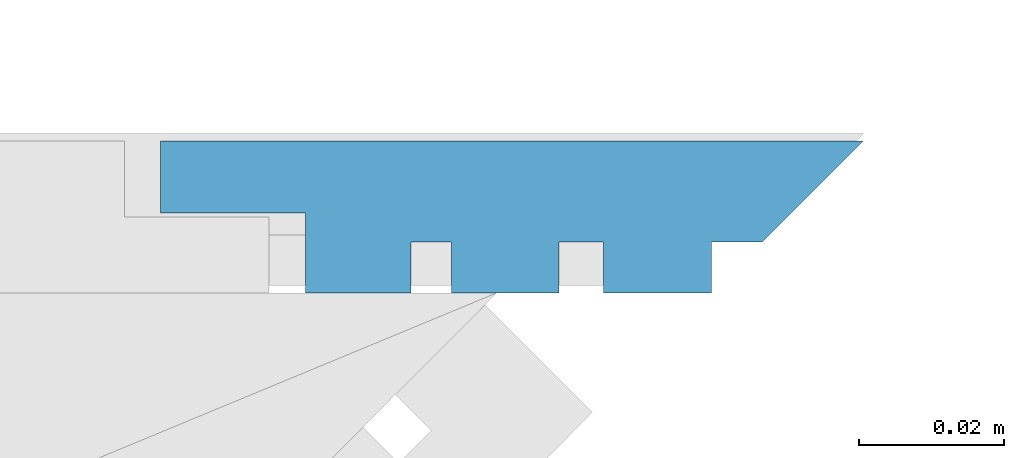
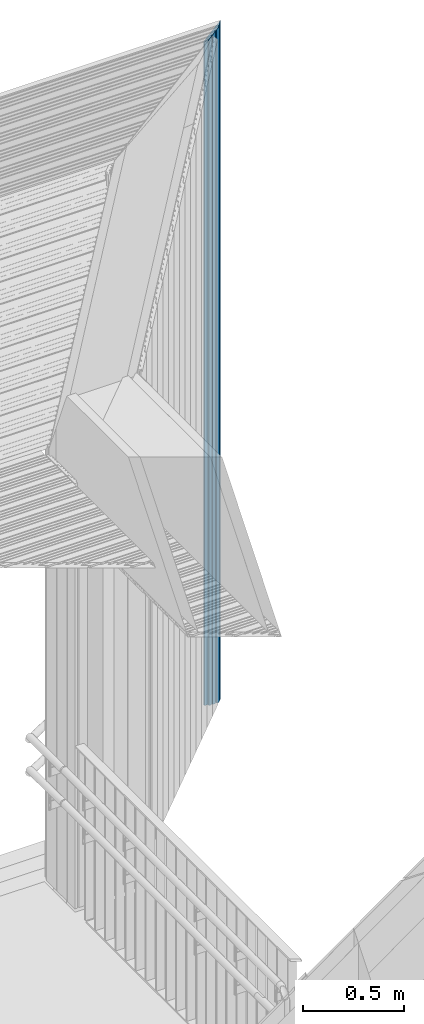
# One storey, part 147 of 418: 1 building element part, 1 element without a shape of its own.
"""IFC2X3 building model written with IfcOpenShell, lengths in millimetres."""

from ifc_helpers import new_model, entity, si_unit, converted_unit, derived_unit, money_unit, direction, frame, origin_with_axes, place, context, subcontext, project, spatial, polyline, outline, extrude, boolean, faceted_brep, material, type_object, element, aggregate, save


model = new_model("IFC2X3")

# Units and contexts
model_context = context("Model", 3, precision=0.01, world=origin_with_axes(), true_north=direction((0.0, 1.0)))
body_context = subcontext(model_context, "Body", "Model", "MODEL_VIEW")
ifc_project = project(units=[si_unit("LENGTHUNIT", "METRE", prefix="MILLI"), si_unit("AREAUNIT", "SQUARE_METRE"), si_unit("VOLUMEUNIT", "CUBIC_METRE"), converted_unit("PLANEANGLEUNIT", "DEGREE", entity("IfcPlaneAngleMeasure", 0.0174532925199), si_unit("PLANEANGLEUNIT", "RADIAN"), dimensions=[0, 0, 0, 0, 0, 0, 0]), si_unit("SOLIDANGLEUNIT", "STERADIAN"), money_unit("EUR"), converted_unit("TIMEUNIT", "Year", entity("IfcTimeMeasure", 31556926.0), si_unit("TIMEUNIT", "SECOND"), dimensions=[0, 0, 1, 0, 0, 0, 0]), si_unit("MASSUNIT", "GRAM", prefix="KILO"), si_unit("THERMODYNAMICTEMPERATUREUNIT", "DEGREE_CELSIUS"), si_unit("LUMINOUSINTENSITYUNIT", "LUMEN"), si_unit("ENERGYUNIT", "JOULE", prefix="MEGA"), derived_unit("THERMALCONDUCTANCEUNIT", [(si_unit("POWERUNIT", "WATT"), 1), (si_unit("LENGTHUNIT", "METRE"), -1), (si_unit("THERMODYNAMICTEMPERATUREUNIT", "KELVIN"), -1)]), derived_unit("SPECIFICHEATCAPACITYUNIT", [(si_unit("ENERGYUNIT", "JOULE"), 1), (si_unit("MASSUNIT", "GRAM", prefix="KILO"), -1), (si_unit("THERMODYNAMICTEMPERATUREUNIT", "KELVIN"), -1)]), derived_unit("MASSDENSITYUNIT", [(si_unit("MASSUNIT", "GRAM", prefix="KILO"), 1), (si_unit("VOLUMEUNIT", "CUBIC_METRE"), -1)])], contexts=[model_context])

# Site, building, storey
site_placement = place(None, origin_with_axes())
site = spatial("IfcSite", under=ifc_project, at=site_placement, Name="Paldiski mnt 245/1, Tallinn, Harjumaa", CompositionType="COMPLEX")
building_placement = place(site_placement, origin_with_axes())
building = spatial("IfcBuilding", under=site, at=building_placement, Name="RKAS Hoone üldnimetus (kasutust iseloomustav) -> IFC Project Manager -> SOLIBRI", CompositionType="ELEMENT")
storey_placement = place(building_placement, origin_with_axes())
storey = spatial("IfcBuildingStorey", under=building, at=storey_placement, Name="Esimene korrus", CompositionType="ELEMENT", Elevation=0.0)

# Proxy, building element part
building_element_proxy_type = type_object("IfcBuildingElementProxyType", Name="Laudis esiprofiil_01 21 x 622", PredefinedType="NOTDEFINED")
proxy_placement = place(storey_placement, frame((-46724.4601459, 39788.252735, 0.0), z_axis=(0.0, 0.0, 1.0), x_axis=(0.0, -1.0, 0.0)))
proxy = element("IfcBuildingElementProxy", 1, at=proxy_placement, inside=storey, type_object=building_element_proxy_type, Name="Varikatus")
ifc_material = material(Name="Laudis 5072 Honka 45 horisontaalne raastas")
building_element_part_placement = place(proxy_placement, origin_with_axes())
building_element_part = element("IfcBuildingElementPart", 2, at=building_element_part_placement, material=ifc_material, Name="Laudis 5072 Honka 45 horisontaalne raastas", context=body_context, shape_type="CSG", body=[
    boolean("DIFFERENCE", boolean("DIFFERENCE", boolean("DIFFERENCE", boolean("DIFFERENCE", boolean("DIFFERENCE", boolean("DIFFERENCE", extrude(outline(polyline([(-21.0000013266, -55.7545733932), (-14.0000008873, -55.7545748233), (-14.0000008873, -61.3952431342), (-21.0000013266, -61.3952431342), (-21.0000013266, -75.9714304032), (-10.0000014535, -75.9714304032), (-10.0000000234, -95.9714304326), (-1.43879088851e-06, -95.9714304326), (8.28322394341e-09, 1.13997680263), (-14.0000008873, -12.860024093), (-14.0000008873, -19.8600231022), (-20.9999998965, -19.8600231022), (-20.9999998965, -34.7991407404), (-14.0000008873, -34.7991393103), (-14.0000008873, -40.9260801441), (-20.9999998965, -40.9260801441), (-21.0000013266, -55.7545733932)])), frame((0.0, 0.0, 0.0), z_axis=(0.0, 0.0, -1.0), x_axis=(-1.0, 0.0, 0.0)), (0.0, 0.0, -1.0), 4086.15997799), faceted_brep([(20.9999998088, -395.971430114, 3689.02857107), (10.5000005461, -395.971429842, 3689.02857134), (10.5000005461, -395.971429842, 4086.15997799), (20.9999998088, -395.971430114, 4086.15997799), (10.5000010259, -415.971430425, 3669.02857076), (21.0000010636, -433.497524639, 3651.50247655), (14.0000005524, -433.497525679, 3651.50247551), (14.0000003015, -439.860022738, 3645.13997845), (20.99999981, -439.860022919, 3645.13997827), (20.9999998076, -454.79914009, 3630.20086109), (14.0000002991, -454.799139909, 3630.20086128), (14.0000007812, -460.926080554, 3624.07392063), (21.0000002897, -460.926080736, 3624.07392045), (21.0000013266, -475.754573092, 3609.24542809), (14.0000008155, -475.754574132, 3609.24542705), (14.0000015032, -481.395242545, 3603.60475864), (21.0000010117, -481.395242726, 3603.60475846), (21.0000007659, -495.971429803, 3589.02857138), (10.000001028, -495.971430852, 3589.02857033), (10.0000002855, -515.971430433, 3569.02857075), (7.6316553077e-07, -515.971430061, 3569.02857112), (-3.20383719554e-08, -415.971430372, 3669.02857081), (10.5000010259, -415.971430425, 4086.15997799), (-3.20383719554e-08, -415.971430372, 4086.15997799), (7.6316553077e-07, -515.971430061, 4086.15997799), (10.0000002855, -515.971430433, 4086.15997799), (10.000001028, -495.971430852, 4086.15997799), (21.0000007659, -495.971429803, 4086.15997799), (21.0000010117, -481.395242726, 4086.15997799), (14.0000015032, -481.395242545, 4086.15997799), (14.0000008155, -475.754574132, 4086.15997799), (21.0000013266, -475.754573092, 4086.15997799), (21.0000002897, -460.926080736, 4086.15997799), (14.0000007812, -460.926080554, 4086.15997799), (14.0000002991, -454.799139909, 4086.15997799), (20.9999998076, -454.79914009, 4086.15997799), (20.99999981, -439.860022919, 4086.15997799), (14.0000003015, -439.860022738, 4086.15997799), (14.0000005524, -433.497525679, 4086.15997799), (21.0000010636, -433.497524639, 4086.15997799)], [[[0, 1, 2, 3]], [[4, 1, 0, 5, 6, 7, 8, 9, 10, 11, 12, 13, 14, 15, 16, 17, 18, 19, 20, 21]], [[1, 4, 22, 2]], [[22, 23, 24, 25, 26, 27, 28, 29, 30, 31, 32, 33, 34, 35, 36, 37, 38, 39, 3, 2]], [[5, 0, 3, 39]], [[6, 5, 39, 38]], [[7, 6, 38, 37]], [[8, 7, 37, 36]], [[9, 8, 36, 35]], [[10, 9, 35, 34]], [[11, 10, 34, 33]], [[12, 11, 33, 32]], [[13, 12, 32, 31]], [[14, 13, 31, 30]], [[15, 14, 30, 29]], [[16, 15, 29, 28]], [[17, 16, 28, 27]], [[18, 17, 27, 26]], [[19, 18, 26, 25]], [[20, 19, 25, 24]], [[21, 20, 24, 23]], [[4, 21, 23, 22]]])), faceted_brep([(20.9999998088, -500.971430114, 3584.02857107), (10.5000005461, -500.971429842, 3584.02857134), (10.5000005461, -500.971429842, 4086.15997799), (20.9999998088, -500.971430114, 4086.15997799), (10.5000010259, -520.971430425, 3564.02857076), (21.0000010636, -538.497524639, 3546.50247655), (14.0000005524, -538.497525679, 3546.50247551), (14.0000003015, -544.860022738, 3540.13997845), (20.99999981, -544.860022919, 3540.13997827), (20.9999998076, -559.79914009, 3525.20086109), (14.0000002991, -559.799139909, 3525.20086128), (14.0000007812, -565.926080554, 3519.07392063), (21.0000002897, -565.926080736, 3519.07392045), (21.0000013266, -580.754573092, 3504.24542809), (14.0000008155, -580.754574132, 3504.24542705), (14.0000015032, -586.395242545, 3498.60475864), (21.0000010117, -586.395242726, 3498.60475846), (21.0000007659, -600.971429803, 3484.02857138), (10.000001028, -600.971430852, 3484.02857033), (10.0000002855, -620.971430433, 3464.02857075), (7.63172636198e-07, -620.971430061, 3464.02857112), (-3.20383719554e-08, -520.971430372, 3564.02857081), (10.5000010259, -520.971430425, 4086.15997799), (-3.20383719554e-08, -520.971430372, 4086.15997799), (7.63172636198e-07, -620.971430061, 4086.15997799), (10.0000002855, -620.971430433, 4086.15997799), (10.000001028, -600.971430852, 4086.15997799), (21.0000007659, -600.971429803, 4086.15997799), (21.0000010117, -586.395242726, 4086.15997799), (14.0000015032, -586.395242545, 4086.15997799), (14.0000008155, -580.754574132, 4086.15997799), (21.0000013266, -580.754573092, 4086.15997799), (21.0000002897, -565.926080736, 4086.15997799), (14.0000007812, -565.926080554, 4086.15997799), (14.0000002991, -559.799139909, 4086.15997799), (20.9999998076, -559.79914009, 4086.15997799), (20.99999981, -544.860022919, 4086.15997799), (14.0000003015, -544.860022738, 4086.15997799), (14.0000005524, -538.497525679, 4086.15997799), (21.0000010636, -538.497524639, 4086.15997799)], [[[0, 1, 2, 3]], [[4, 1, 0, 5, 6, 7, 8, 9, 10, 11, 12, 13, 14, 15, 16, 17, 18, 19, 20, 21]], [[1, 4, 22, 2]], [[22, 23, 24, 25, 26, 27, 28, 29, 30, 31, 32, 33, 34, 35, 36, 37, 38, 39, 3, 2]], [[5, 0, 3, 39]], [[6, 5, 39, 38]], [[7, 6, 38, 37]], [[8, 7, 37, 36]], [[9, 8, 36, 35]], [[10, 9, 35, 34]], [[11, 10, 34, 33]], [[12, 11, 33, 32]], [[13, 12, 32, 31]], [[14, 13, 31, 30]], [[15, 14, 30, 29]], [[16, 15, 29, 28]], [[17, 16, 28, 27]], [[18, 17, 27, 26]], [[19, 18, 26, 25]], [[20, 19, 25, 24]], [[21, 20, 24, 23]], [[4, 21, 23, 22]]])), faceted_brep([(20.9999998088, -185.971430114, 3899.02857107), (10.5000005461, -185.971429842, 3899.02857134), (10.5000005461, -185.971429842, 4086.15997799), (20.9999998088, -185.971430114, 4086.15997799), (10.5000010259, -205.971430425, 3879.02857076), (21.0000010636, -223.497524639, 3861.50247655), (14.0000005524, -223.497525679, 3861.50247551), (14.0000003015, -229.860022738, 3855.13997845), (20.99999981, -229.860022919, 3855.13997827), (20.9999998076, -244.79914009, 3840.20086109), (14.0000002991, -244.799139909, 3840.20086128), (14.0000007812, -250.926080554, 3834.07392063), (21.0000002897, -250.926080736, 3834.07392045), (21.0000013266, -265.754573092, 3819.24542809), (14.0000008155, -265.754574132, 3819.24542705), (14.0000015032, -271.395242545, 3813.60475864), (21.0000010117, -271.395242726, 3813.60475846), (21.0000007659, -285.971429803, 3799.02857138), (10.000001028, -285.971430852, 3799.02857033), (10.0000002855, -305.971430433, 3779.02857075), (7.63172636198e-07, -305.971430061, 3779.02857112), (-3.20383719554e-08, -205.971430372, 3879.02857081), (10.5000010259, -205.971430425, 4086.15997799), (-3.20383719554e-08, -205.971430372, 4086.15997799), (7.63172636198e-07, -305.971430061, 4086.15997799), (10.0000002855, -305.971430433, 4086.15997799), (10.000001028, -285.971430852, 4086.15997799), (21.0000007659, -285.971429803, 4086.15997799), (21.0000010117, -271.395242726, 4086.15997799), (14.0000015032, -271.395242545, 4086.15997799), (14.0000008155, -265.754574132, 4086.15997799), (21.0000013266, -265.754573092, 4086.15997799), (21.0000002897, -250.926080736, 4086.15997799), (14.0000007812, -250.926080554, 4086.15997799), (14.0000002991, -244.799139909, 4086.15997799), (20.9999998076, -244.79914009, 4086.15997799), (20.99999981, -229.860022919, 4086.15997799), (14.0000003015, -229.860022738, 4086.15997799), (14.0000005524, -223.497525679, 4086.15997799), (21.0000010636, -223.497524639, 4086.15997799)], [[[0, 1, 2, 3]], [[4, 1, 0, 5, 6, 7, 8, 9, 10, 11, 12, 13, 14, 15, 16, 17, 18, 19, 20, 21]], [[1, 4, 22, 2]], [[22, 23, 24, 25, 26, 27, 28, 29, 30, 31, 32, 33, 34, 35, 36, 37, 38, 39, 3, 2]], [[5, 0, 3, 39]], [[6, 5, 39, 38]], [[7, 6, 38, 37]], [[8, 7, 37, 36]], [[9, 8, 36, 35]], [[10, 9, 35, 34]], [[11, 10, 34, 33]], [[12, 11, 33, 32]], [[13, 12, 32, 31]], [[14, 13, 31, 30]], [[15, 14, 30, 29]], [[16, 15, 29, 28]], [[17, 16, 28, 27]], [[18, 17, 27, 26]], [[19, 18, 26, 25]], [[20, 19, 25, 24]], [[21, 20, 24, 23]], [[4, 21, 23, 22]]])), faceted_brep([(20.9999998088, -290.971430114, 3794.02857107), (10.5000005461, -290.971429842, 3794.02857134), (10.5000005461, -290.971429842, 4086.15997799), (20.9999998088, -290.971430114, 4086.15997799), (10.5000010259, -310.971430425, 3774.02857076), (21.0000010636, -328.497524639, 3756.50247655), (14.0000005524, -328.497525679, 3756.50247551), (14.0000003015, -334.860022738, 3750.13997845), (20.99999981, -334.860022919, 3750.13997827), (20.9999998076, -349.79914009, 3735.20086109), (14.0000002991, -349.799139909, 3735.20086128), (14.0000007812, -355.926080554, 3729.07392063), (21.0000002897, -355.926080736, 3729.07392045), (21.0000013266, -370.754573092, 3714.24542809), (14.0000008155, -370.754574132, 3714.24542705), (14.0000015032, -376.395242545, 3708.60475864), (21.0000010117, -376.395242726, 3708.60475846), (21.0000007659, -390.971429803, 3694.02857138), (10.000001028, -390.971430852, 3694.02857033), (10.0000002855, -410.971430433, 3674.02857075), (7.6316553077e-07, -410.971430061, 3674.02857112), (-3.20383719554e-08, -310.971430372, 3774.02857081), (10.5000010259, -310.971430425, 4086.15997799), (-3.20383719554e-08, -310.971430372, 4086.15997799), (7.6316553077e-07, -410.971430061, 4086.15997799), (10.0000002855, -410.971430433, 4086.15997799), (10.000001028, -390.971430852, 4086.15997799), (21.0000007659, -390.971429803, 4086.15997799), (21.0000010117, -376.395242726, 4086.15997799), (14.0000015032, -376.395242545, 4086.15997799), (14.0000008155, -370.754574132, 4086.15997799), (21.0000013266, -370.754573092, 4086.15997799), (21.0000002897, -355.926080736, 4086.15997799), (14.0000007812, -355.926080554, 4086.15997799), (14.0000002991, -349.799139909, 4086.15997799), (20.9999998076, -349.79914009, 4086.15997799), (20.99999981, -334.860022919, 4086.15997799), (14.0000003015, -334.860022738, 4086.15997799), (14.0000005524, -328.497525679, 4086.15997799), (21.0000010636, -328.497524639, 4086.15997799)], [[[0, 1, 2, 3]], [[4, 1, 0, 5, 6, 7, 8, 9, 10, 11, 12, 13, 14, 15, 16, 17, 18, 19, 20, 21]], [[1, 4, 22, 2]], [[22, 23, 24, 25, 26, 27, 28, 29, 30, 31, 32, 33, 34, 35, 36, 37, 38, 39, 3, 2]], [[5, 0, 3, 39]], [[6, 5, 39, 38]], [[7, 6, 38, 37]], [[8, 7, 37, 36]], [[9, 8, 36, 35]], [[10, 9, 35, 34]], [[11, 10, 34, 33]], [[12, 11, 33, 32]], [[13, 12, 32, 31]], [[14, 13, 31, 30]], [[15, 14, 30, 29]], [[16, 15, 29, 28]], [[17, 16, 28, 27]], [[18, 17, 27, 26]], [[19, 18, 26, 25]], [[20, 19, 25, 24]], [[21, 20, 24, 23]], [[4, 21, 23, 22]]])), faceted_brep([(14.0000008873, -12.860024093, 4072.13997709), (-8.29203372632e-09, 1.13997680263, 4086.13997799), (-8.29203372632e-09, 1.13997680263, 4086.15997799), (14.0000008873, -12.860024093, 4086.15997799), (1.4387921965e-06, -95.9714304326, 3989.02857075), (14.0000008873, -19.8600231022, 4065.13997808), (20.9999998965, -19.8600231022, 4065.13997808), (20.9999998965, -34.7991407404, 4050.20086044), (14.0000008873, -34.7991393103, 4050.20086187), (14.0000008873, -40.9260801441, 4044.07392104), (20.9999998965, -40.9260801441, 4044.07392104), (21.0000013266, -55.7545733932, 4029.24542779), (14.0000008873, -55.7545748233, 4029.24542636), (14.0000008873, -61.3952431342, 4023.60475805), (21.0000013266, -61.3952431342, 4023.60475805), (21.0000013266, -75.9714304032, 4009.02857078), (10.0000014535, -75.9714304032, 4009.02857078), (10.0000000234, -95.9714304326, 3989.02857075), (1.4387921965e-06, -95.9714304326, 4086.15997799), (14.0000008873, -55.7545748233, 4086.15997799), (21.0000013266, -55.7545733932, 4086.15997799), (20.9999998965, -40.9260801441, 4086.15997799), (14.0000008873, -40.9260801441, 4086.15997799), (14.0000008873, -34.7991393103, 4086.15997799), (20.9999998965, -34.7991407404, 4086.15997799), (20.9999998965, -19.8600231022, 4086.15997799), (14.0000008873, -19.8600231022, 4086.15997799), (10.0000000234, -95.9714304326, 4086.15997799), (10.0000014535, -75.9714304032, 4086.15997799), (21.0000013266, -75.9714304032, 4086.15997799), (21.0000013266, -61.3952431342, 4086.15997799), (14.0000008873, -61.3952431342, 4086.15997799)], [[[0, 1, 2, 3]], [[4, 1, 0, 5, 6, 7, 8, 9, 10, 11, 12, 13, 14, 15, 16, 17]], [[1, 4, 18, 2]], [[19, 20, 21, 22, 23, 24, 25, 26, 3, 2, 18, 27, 28, 29, 30, 31]], [[5, 0, 3, 26]], [[6, 5, 26, 25]], [[7, 6, 25, 24]], [[8, 7, 24, 23]], [[9, 8, 23, 22]], [[10, 9, 22, 21]], [[11, 10, 21, 20]], [[12, 11, 20, 19]], [[13, 12, 19, 31]], [[14, 13, 31, 30]], [[15, 14, 30, 29]], [[16, 15, 29, 28]], [[17, 16, 28, 27]], [[4, 17, 27, 18]]])), faceted_brep([(20.9999998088, -80.9714301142, 4004.02857107), (10.5000005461, -80.9714298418, 4004.02857134), (10.5000005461, -80.9714298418, 4086.15997799), (20.9999998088, -80.9714301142, 4086.15997799), (10.5000010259, -100.971430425, 3984.02857076), (21.0000010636, -118.497524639, 3966.50247655), (14.0000005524, -118.497525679, 3966.50247551), (14.0000003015, -124.860022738, 3960.13997845), (20.99999981, -124.860022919, 3960.13997827), (20.9999998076, -139.79914009, 3945.20086109), (14.0000002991, -139.799139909, 3945.20086128), (14.0000007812, -145.926080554, 3939.07392063), (21.0000002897, -145.926080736, 3939.07392045), (21.0000013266, -160.754573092, 3924.24542809), (14.0000008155, -160.754574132, 3924.24542705), (14.0000015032, -166.395242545, 3918.60475864), (21.0000010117, -166.395242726, 3918.60475846), (21.0000007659, -180.971429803, 3904.02857138), (10.000001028, -180.971430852, 3904.02857033), (10.0000002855, -200.971430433, 3884.02857075), (7.6316553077e-07, -200.971430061, 3884.02857112), (-3.20383719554e-08, -100.971430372, 3984.02857081), (10.5000010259, -100.971430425, 4086.15997799), (-3.20383719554e-08, -100.971430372, 4086.15997799), (7.6316553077e-07, -200.971430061, 4086.15997799), (10.0000002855, -200.971430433, 4086.15997799), (10.000001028, -180.971430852, 4086.15997799), (21.0000007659, -180.971429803, 4086.15997799), (21.0000010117, -166.395242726, 4086.15997799), (14.0000015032, -166.395242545, 4086.15997799), (14.0000008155, -160.754574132, 4086.15997799), (21.0000013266, -160.754573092, 4086.15997799), (21.0000002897, -145.926080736, 4086.15997799), (14.0000007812, -145.926080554, 4086.15997799), (14.0000002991, -139.799139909, 4086.15997799), (20.9999998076, -139.79914009, 4086.15997799), (20.99999981, -124.860022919, 4086.15997799), (14.0000003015, -124.860022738, 4086.15997799), (14.0000005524, -118.497525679, 4086.15997799), (21.0000010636, -118.497524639, 4086.15997799)], [[[0, 1, 2, 3]], [[4, 1, 0, 5, 6, 7, 8, 9, 10, 11, 12, 13, 14, 15, 16, 17, 18, 19, 20, 21]], [[1, 4, 22, 2]], [[22, 23, 24, 25, 26, 27, 28, 29, 30, 31, 32, 33, 34, 35, 36, 37, 38, 39, 3, 2]], [[5, 0, 3, 39]], [[6, 5, 39, 38]], [[7, 6, 38, 37]], [[8, 7, 37, 36]], [[9, 8, 36, 35]], [[10, 9, 35, 34]], [[11, 10, 34, 33]], [[12, 11, 33, 32]], [[13, 12, 32, 31]], [[14, 13, 31, 30]], [[15, 14, 30, 29]], [[16, 15, 29, 28]], [[17, 16, 28, 27]], [[18, 17, 27, 26]], [[19, 18, 26, 25]], [[20, 19, 25, 24]], [[21, 20, 24, 23]], [[4, 21, 23, 22]]])),
])
aggregate(proxy, [building_element_part])

save(model, "model.ifc")
